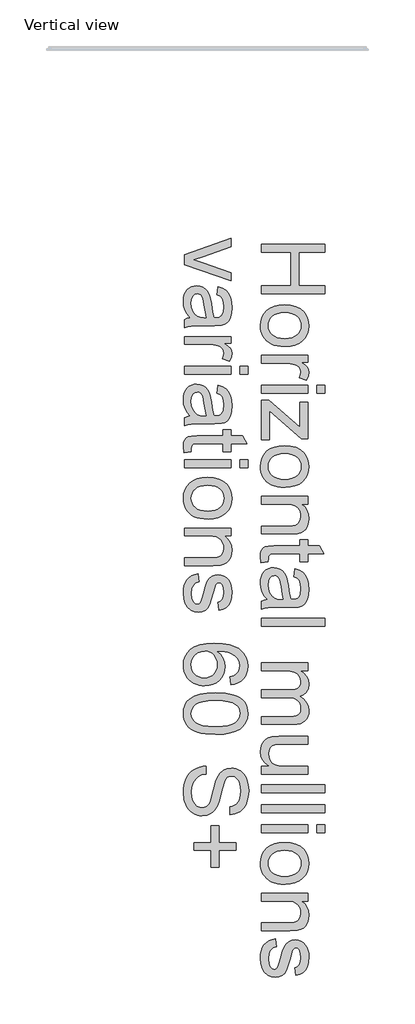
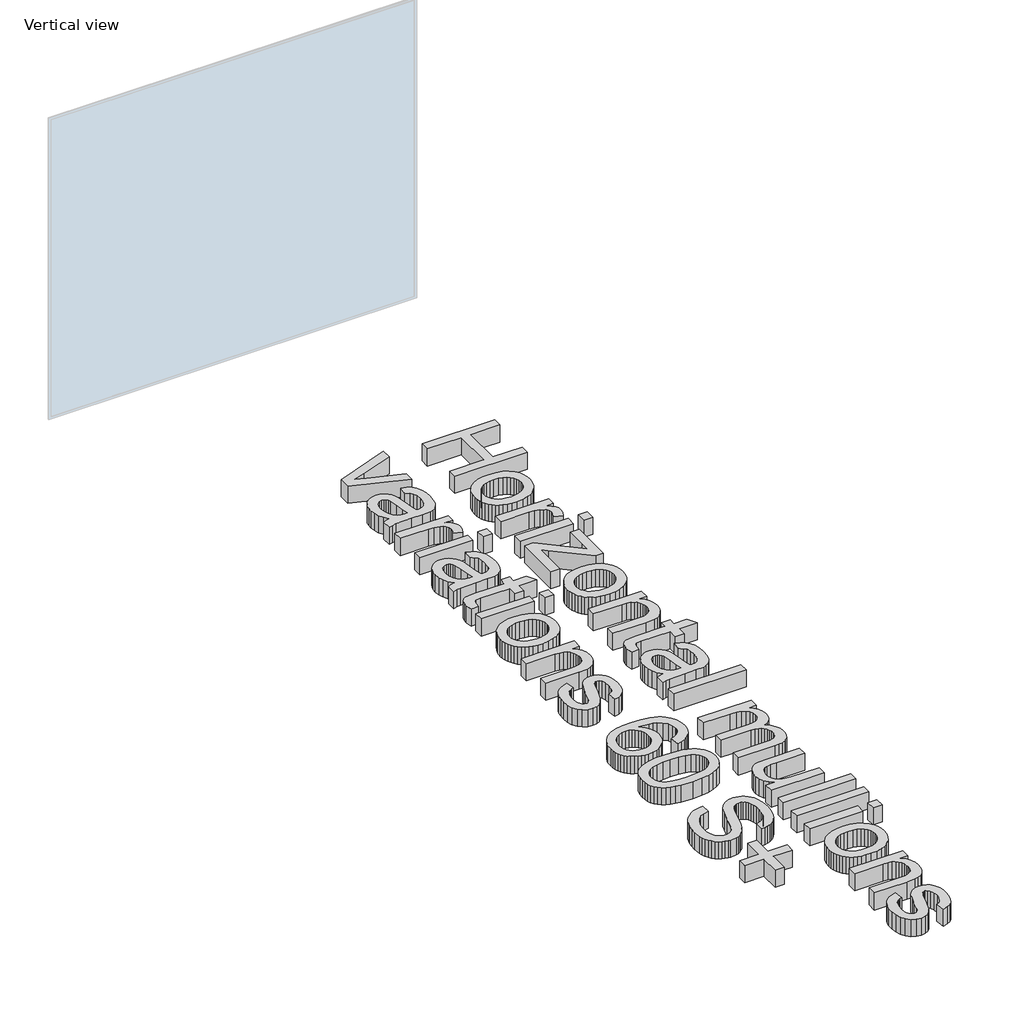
# One storey, part 8 of 8: 1 proxy.
"""IFC4 building model written with IfcOpenShell, lengths in millimetres."""

from ifc_helpers import new_model, si_unit, origin, origin_with_axes, place, context, project, spatial, polyline, outline, extrude, element, save

model = new_model("IFC4")

# Units and contexts
model_context = context("Model", 3, world=origin())
ifc_project = project(units=[si_unit("LENGTHUNIT", "METRE", prefix="MILLI")], contexts=[model_context])

# Site, building, storey
site = spatial("IfcSite", under=ifc_project)
building = spatial("IfcBuilding", under=site)
storey = spatial("IfcBuildingStorey", under=building, Name="Vertical view", Elevation=0.0)

# Proxy
placement = place(None, origin())
element("IfcBuildingElementProxy", 1, Name="600mm Arial", ObjectType="600mm Arial", at=placement, inside=storey, context=model_context, shape_type="SweptSolid", body=[
    extrude(outline(polyline([(35976.6354854, -5839.229343), (36579.3733463, -5839.229343), (36579.3733463, -5914.5715756), (36334.5110903, -5914.5715756), (36334.5110903, -6234.7760642), (36579.3733463, -6234.7760642), (36579.3733463, -6310.1182968), (35976.6354854, -6310.1182968), (35976.6354854, -6234.7760642), (36259.1688577, -6234.7760642), (36259.1688577, -5914.5715756), (35976.6354854, -5914.5715756), (35976.6354854, -5839.229343)])), origin_with_axes(), (0.0, 0.0, 1.0), 150.0),
    extrude(outline(polyline([(36197.9532937, -6413.7138666), (36255.2785056, -6417.7881597), (36304.6758605, -6430.011039), (36346.1453584, -6450.3825045), (36379.6869993, -6478.9025562), (36401.1253225, -6507.6157459), (36416.4384106, -6539.3087798), (36425.6262634, -6573.9816578), (36428.688881, -6611.63438), (36424.9594773, -6653.200447), (36413.7712661, -6690.7841913), (36395.1242475, -6724.385613), (36369.0184214, -6754.0047122), (36336.3367047, -6778.1791578), (36297.962014, -6795.4466189), (36253.8943495, -6805.8070956), (36204.1337112, -6809.2605878), (36163.8046475, -6807.7338776), (36128.0189264, -6803.1537467), (36096.7765479, -6795.5201953), (36070.0775121, -6784.8332234), (36047.0159096, -6771.2261881), (36026.6858308, -6754.8324466), (36009.0872759, -6735.6519991), (35994.2202447, -6713.6848455), (35982.4066342, -6689.7863114), (35973.9683409, -6664.8117224), (35968.9053649, -6638.7610786), (35967.2177063, -6611.63438), (35970.9333144, -6569.4613078), (35982.0801389, -6531.5280756), (36000.6581796, -6497.8346833), (36026.6674367, -6468.3811311), (36059.6664517, -6444.4642029), (36099.2137661, -6427.3806827), (36145.3093801, -6417.1305707), (36197.9532937, -6413.7138666)]), holes=[polyline([(36198.1004465, -6489.0560992), (36161.5559688, -6491.2358001), (36129.9135186, -6497.7749025), (36103.1730961, -6508.6734066), (36081.3347012, -6523.9313124), (36064.3707427, -6542.490959), (36052.2536295, -6563.2946859), (36044.9833615, -6586.3424929), (36042.5599389, -6611.63438), (36044.9971571, -6636.7975085), (36052.3088118, -6659.753345), (36064.4949029, -6680.5018895), (36081.5554304, -6699.0431421), (36103.609956, -6714.3010478), (36130.7780413, -6725.1995519), (36163.0596864, -6731.7386544), (36200.4548912, -6733.9183552), (36235.8405406, -6731.7248588), (36266.6552563, -6725.1443696), (36292.8990381, -6714.1768877), (36314.5718861, -6698.8224129), (36331.5358446, -6680.2121825), (36343.6529578, -6659.4774335), (36350.9232258, -6636.618166), (36353.3466484, -6611.63438), (36350.9324228, -6586.3424929), (36343.689746, -6563.2946859), (36331.6186181, -6542.490959), (36314.7190389, -6523.9313124), (36292.9450233, -6508.6734066), (36266.2505861, -6497.7749025), (36234.6357271, -6491.2358001), (36198.1004465, -6489.0560992)])]), origin_with_axes(), (0.0, 0.0, 1.0), 150.0),
    extrude(outline(polyline([(35976.6354854, -6894.0205995), (36419.271102, -6894.0205995), (36419.271102, -6959.9450531), (36353.7881068, -6959.9450531), (36391.7535287, -6984.2988411), (36414.120754, -7006.7396428), (36425.0468493, -7029.2540209), (36428.688881, -7053.8285382), (36422.8763455, -7091.3525017), (36405.4387389, -7129.4650764), (36337.8956046, -7104.301948), (36349.4838875, -7077.8144443), (36353.3466484, -7051.3269407), (36349.6310403, -7028.8309567), (36338.4842158, -7008.7262056), (36320.7523036, -6992.4842155), (36297.2814324, -6981.5765144), (36255.1957321, -6972.4162527), (36209.2840591, -6969.3628321), (35976.6354854, -6969.3628321), (35976.6354854, -6894.0205995)])), origin_with_axes(), (0.0, 0.0, 1.0), 150.0),
    extrude(outline(polyline([(35976.6354854, -7176.5539718), (36419.271102, -7176.5539718), (36419.271102, -7251.8962044), (35976.6354854, -7251.8962044), (35976.6354854, -7176.5539718)])), origin_with_axes(), (0.0, 0.0, 1.0), 150.0),
    extrude(outline(polyline([(36504.0311136, -7176.5539718), (36579.3733463, -7176.5539718), (36579.3733463, -7251.8962044), (36504.0311136, -7251.8962044), (36504.0311136, -7176.5539718)])), origin_with_axes(), (0.0, 0.0, 1.0), 150.0),
    extrude(outline(polyline([(35976.6354854, -7317.820658), (36047.563134, -7317.820658), (36343.9288693, -7577.8396522), (36343.9288693, -7500.8787388), (36343.9288693, -7336.6562161), (36419.271102, -7336.6562161), (36419.271102, -7685.114042), (36355.2596348, -7685.114042), (36092.2975846, -7454.5256074), (36051.977718, -7419.2089358), (36051.977718, -7506.3233923), (36051.977718, -7694.531821), (35976.6354854, -7694.531821), (35976.6354854, -7317.820658)])), origin_with_axes(), (0.0, 0.0, 1.0), 150.0),
    extrude(outline(polyline([(36197.9532937, -7751.0384955), (36255.2785056, -7755.1127886), (36304.6758605, -7767.3356679), (36346.1453584, -7787.7071334), (36379.6869993, -7816.227185), (36401.1253225, -7844.9403748), (36416.4384106, -7876.6334086), (36425.6262634, -7911.3062867), (36428.688881, -7948.9590089), (36424.9594773, -7990.5250758), (36413.7712661, -8028.1088202), (36395.1242475, -8061.7102419), (36369.0184214, -8091.329341), (36336.3367047, -8115.5037866), (36297.962014, -8132.7712478), (36253.8943495, -8143.1317245), (36204.1337112, -8146.5852167), (36163.8046475, -8145.0585064), (36128.0189264, -8140.4783756), (36096.7765479, -8132.8448242), (36070.0775121, -8122.1578522), (36047.0159096, -8108.5508169), (36026.6858308, -8092.1570755), (36009.0872759, -8072.976628), (35994.2202447, -8051.0094744), (35982.4066342, -8027.1109402), (35973.9683409, -8002.1363513), (35968.9053649, -7976.0857075), (35967.2177063, -7948.9590089), (35970.9333144, -7906.7859367), (35982.0801389, -7868.8527044), (36000.6581796, -7835.1593122), (36026.6674367, -7805.70576), (36059.6664517, -7781.7888318), (36099.2137661, -7764.7053116), (36145.3093801, -7754.4551995), (36197.9532937, -7751.0384955)]), holes=[polyline([(36198.1004465, -7826.3807281), (36161.5559688, -7828.5604289), (36129.9135186, -7835.0995314), (36103.1730961, -7845.9980355), (36081.3347012, -7861.2559412), (36064.3707427, -7879.8155879), (36052.2536295, -7900.6193147), (36044.9833615, -7923.6671217), (36042.5599389, -7948.9590089), (36044.9971571, -7974.1221374), (36052.3088118, -7997.0779739), (36064.4949029, -8017.8265184), (36081.5554304, -8036.3677709), (36103.609956, -8051.6256767), (36130.7780413, -8062.5241808), (36163.0596864, -8069.0632833), (36200.4548912, -8071.2429841), (36235.8405406, -8069.0494877), (36266.6552563, -8062.4689985), (36292.8990381, -8051.5015165), (36314.5718861, -8036.1470417), (36331.5358446, -8017.5368113), (36343.6529578, -7996.8020624), (36350.9232258, -7973.9427949), (36353.3466484, -7948.9590089), (36350.9324228, -7923.6671217), (36343.689746, -7900.6193147), (36331.6186181, -7879.8155879), (36314.7190389, -7861.2559412), (36292.9450233, -7845.9980355), (36266.2505861, -7835.0995314), (36234.6357271, -7828.5604289), (36198.1004465, -7826.3807281)])]), origin_with_axes(), (0.0, 0.0, 1.0), 150.0),
    extrude(outline(polyline([(35976.6354854, -8231.3452284), (36419.271102, -8231.3452284), (36419.271102, -8306.687461), (36357.4669268, -8306.687461), (36388.6265318, -8332.862265), (36410.8833925, -8364.2977814), (36424.2375089, -8400.9940105), (36428.688881, -8442.950952), (36425.1020316, -8480.0886394), (36414.3414832, -8514.0993299), (36397.7500052, -8542.4630317), (36376.6703669, -8562.6597532), (36351.1577505, -8576.3633576), (36321.2673384, -8585.2477077), (36248.4267034, -8589.2208333), (35976.6354854, -8589.2208333), (35976.6354854, -8513.8786007), (36238.2731603, -8513.8786007), (36277.2318636, -8511.7080969), (36304.9333779, -8505.1965856), (36324.7806115, -8493.1852385), (36340.176473, -8474.5152272), (36350.0541046, -8450.5845034), (36353.3466484, -8422.7910187), (36351.4980414, -8399.9133571), (36345.9522203, -8378.6635734), (36336.7091852, -8359.0416674), (36323.768936, -8341.0476394), (36305.6599448, -8326.0150613), (36280.9106836, -8315.2775056), (36249.5211523, -8308.8349721), (36211.4913511, -8306.687461), (35976.6354854, -8306.687461), (35976.6354854, -8231.3452284)])), origin_with_axes(), (0.0, 0.0, 1.0), 150.0),
    extrude(outline(polyline([(36039.4697301, -8852.9186474), (35974.4281934, -8862.3364265), (35967.2177063, -8805.9769049), (35970.3447032, -8769.8141047), (35979.7256941, -8742.8483545), (35994.1834565, -8723.7920671), (36012.5407681, -8711.3576557), (36044.0682551, -8704.5150506), (36098.0365438, -8702.2341822), (36343.9288693, -8702.2341822), (36343.9288693, -8645.7275078), (36419.271102, -8645.7275078), (36419.271102, -8702.2341822), (36526.8397973, -8702.2341822), (36571.1327896, -8777.5764148), (36419.271102, -8777.5764148), (36419.271102, -8852.9186474), (36343.9288693, -8852.9186474), (36343.9288693, -8777.5764148), (36100.2438357, -8777.5764148), (36061.395497, -8781.5495404), (36047.6367104, -8794.4254102), (36043.8291318, -8805.2963232), (36042.5599389, -8820.1035735), (36039.4697301, -8852.9186474)])), origin_with_axes(), (0.0, 0.0, 1.0), 150.0),
    extrude(outline(polyline([(36033.1421598, -9210.7942523), (36002.2768604, -9174.7969991), (35982.0801389, -9137.7328881), (35970.9333144, -9098.7557907), (35967.2177063, -9057.0195784), (35969.4525894, -9023.4733389), (35976.1572388, -8994.0565749), (35987.3316544, -8968.7692862), (36002.9758362, -8947.611473), (36022.0965029, -8930.9050319), (36043.7003731, -8918.9718597), (36067.7874467, -8911.8119563), (36094.3577238, -8909.4253219), (36125.5909052, -8913.0305655), (36153.954607, -8923.8462961), (36178.2348187, -8940.5297446), (36197.2175297, -8961.7381416), (36211.5649275, -8986.6621468), (36221.9391997, -9014.4924197), (36233.2699652, -9079.6811093), (36245.1893418, -9156.7155991), (36259.1688577, -9210.352794), (36275.9442766, -9210.7942523), (36309.568691, -9205.6071162), (36322.0214965, -9199.1231961), (36331.5680343, -9190.0457078), (36341.096178, -9174.3555407), (36347.9019949, -9155.2440711), (36353.3466484, -9106.7572241), (36349.7230108, -9061.8756207), (36338.8520978, -9030.5320747), (36318.7473468, -9009.1581308), (36287.4221949, -8994.1853336), (36296.839974, -8918.843101), (36338.0427574, -8931.9213059), (36370.416373, -8951.4374457), (36395.1748313, -8979.2125364), (36413.5321428, -9017.0675937), (36424.8996965, -9063.3655428), (36428.688881, -9116.4693088), (36425.3411549, -9167.402571), (36415.2979764, -9207.77762), (36400.1964205, -9238.2198551), (36381.673562, -9259.3546757), (36358.7729078, -9273.3709797), (36330.5379647, -9282.457665), (36264.6135112, -9286.136485), (36170.8771788, -9286.136485), (36039.9847649, -9289.9624577), (36007.6295434, -9295.6278404), (35976.6354854, -9304.9720431), (35976.6354854, -9229.6298105), (36002.8286834, -9217.5632811), (36033.1421598, -9210.7942523)]), holes=[polyline([(36183.826625, -9210.7942523), (36171.281849, -9160.1736898), (36160.7236357, -9089.2460411), (36148.5099535, -9024.4252336), (36140.1590322, -9007.5578441), (36128.6443258, -8995.0682504), (36114.8487509, -8987.3427285), (36099.6552245, -8984.7675545), (36077.251211, -8990.3777549), (36058.8938995, -9007.2083562), (36046.643429, -9034.8914764), (36042.5599389, -9073.0592334), (36047.0664933, -9113.5262528), (36060.5861567, -9149.2843828), (36080.5069667, -9178.273484), (36104.2169613, -9198.4334173), (36128.6443258, -9207.3729498), (36162.4894693, -9210.352794), (36183.826625, -9210.7942523)])]), origin_with_axes(), (0.0, 0.0, 1.0), 150.0),
    extrude(outline(polyline([(35976.6354854, -9389.7320548), (36579.3733463, -9389.7320548), (36579.3733463, -9465.0742874), (35976.6354854, -9465.0742874), (35976.6354854, -9389.7320548)])), origin_with_axes(), (0.0, 0.0, 1.0), 150.0),
    extrude(outline(polyline([(35976.6354854, -9813.5321132), (36419.271102, -9813.5321132), (36419.271102, -9888.8743459), (36346.4304669, -9888.8743459), (36379.8893344, -9911.5358768), (36406.1009265, -9940.6721308), (36423.0418924, -9975.2898265), (36428.688881, -10014.3956826), (36422.9315278, -10056.2974419), (36415.7348363, -10074.1305216), (36405.6594681, -10089.885068), (36378.0131362, -10114.9746201), (36341.1329662, -10131.3821571), (36379.4386789, -10158.844548), (36406.7999023, -10190.1696999), (36423.2166364, -10225.3576127), (36428.688881, -10264.4082865), (36426.4126112, -10294.5700116), (36419.5838016, -10321.0437197), (36408.2024524, -10343.8294108), (36392.2685635, -10362.9270848), (36371.5981939, -10378.0240422), (36346.0074026, -10388.8075832), (36315.4961896, -10395.2777078), (36280.064555, -10397.434416), (35976.6354854, -10397.434416), (35976.6354854, -10322.0921834), (36247.6909394, -10322.0921834), (36285.2700852, -10320.3447439), (36310.5987606, -10315.1024255), (36327.9443967, -10305.2799762), (36341.5744246, -10289.7921442), (36350.4035925, -10269.8713342), (36353.3466484, -10246.7499508), (36351.4612532, -10225.3989995), (36345.8050675, -10205.9334434), (36336.3780914, -10188.3532826), (36323.1803248, -10172.6585169), (36305.8254917, -10159.7504574), (36283.9273159, -10150.5304149), (36257.4857975, -10144.9983894), (36226.5009365, -10143.1543809), (35976.6354854, -10143.1543809), (35976.6354854, -10067.8121483), (36256.0786489, -10067.8121483), (36298.6793839, -10063.4527467), (36315.3996206, -10058.0034946), (36329.0664367, -10050.3745417), (36339.6890293, -10040.2623854), (36347.2765955, -10027.3635229), (36351.8291352, -10011.6779544), (36353.3466484, -9993.2056797), (36349.2999465, -9964.1797903), (36337.1598406, -9937.4347692), (36317.2206365, -9915.3618495), (36289.7766397, -9900.3522641), (36251.7008531, -9891.7438254), (36199.86628, -9888.8743459), (35976.6354854, -9888.8743459), (35976.6354854, -9813.5321132)])), origin_with_axes(), (0.0, 0.0, 1.0), 150.0),
    extrude(outline(polyline([(35976.6354854, -10792.9811372), (36052.713482, -10792.9811372), (36015.3090801, -10765.7210814), (35988.5916502, -10733.9728652), (35972.5611923, -10697.7364887), (35967.2177063, -10657.0119518), (35970.9701026, -10620.3157228), (35982.2272917, -10586.1578795), (35999.1498635, -10557.4998721), (36019.898408, -10537.3031506), (36045.0983247, -10523.7099108), (36075.3750129, -10514.8623489), (36145.4197447, -10510.4477649), (36419.271102, -10510.4477649), (36419.271102, -10585.7899975), (36180.8835691, -10585.7899975), (36133.2060625, -10586.9304317), (36104.0698085, -10590.3517343), (36078.4468275, -10601.3330118), (36058.9674759, -10620.1501759), (36046.6618231, -10645.5524276), (36042.5599389, -10676.2889683), (36046.7537936, -10708.7913426), (36059.3353579, -10739.1967895), (36079.1458033, -10764.2679475), (36105.0263017, -10780.767455), (36140.4717319, -10789.9277166), (36188.976973, -10792.9811372), (36419.271102, -10792.9811372), (36419.271102, -10868.3233698), (35976.6354854, -10868.3233698), (35976.6354854, -10792.9811372)])), origin_with_axes(), (0.0, 0.0, 1.0), 150.0),
    extrude(outline(polyline([(35976.6354854, -10971.9189397), (36579.3733463, -10971.9189397), (36579.3733463, -11047.2611723), (35976.6354854, -11047.2611723), (35976.6354854, -10971.9189397)])), origin_with_axes(), (0.0, 0.0, 1.0), 150.0),
    extrude(outline(polyline([(35976.6354854, -11160.2745212), (36579.3733463, -11160.2745212), (36579.3733463, -11235.6167538), (35976.6354854, -11235.6167538), (35976.6354854, -11160.2745212)])), origin_with_axes(), (0.0, 0.0, 1.0), 150.0),
    extrude(outline(polyline([(35976.6354854, -11348.6301027), (36419.271102, -11348.6301027), (36419.271102, -11423.9723353), (35976.6354854, -11423.9723353), (35976.6354854, -11348.6301027)])), origin_with_axes(), (0.0, 0.0, 1.0), 150.0),
    extrude(outline(polyline([(36504.0311136, -11348.6301027), (36579.3733463, -11348.6301027), (36579.3733463, -11423.9723353), (36504.0311136, -11423.9723353), (36504.0311136, -11348.6301027)])), origin_with_axes(), (0.0, 0.0, 1.0), 150.0),
    extrude(outline(polyline([(36197.9532937, -11518.1501261), (36255.2785056, -11522.2244192), (36304.6758605, -11534.4472985), (36346.1453584, -11554.818764), (36379.6869993, -11583.3388156), (36401.1253225, -11612.0520054), (36416.4384106, -11643.7450393), (36425.6262634, -11678.4179173), (36428.688881, -11716.0706395), (36424.9594773, -11757.6367064), (36413.7712661, -11795.2204508), (36395.1242475, -11828.8218725), (36369.0184214, -11858.4409716), (36336.3367047, -11882.6154172), (36297.962014, -11899.8828784), (36253.8943495, -11910.2433551), (36204.1337112, -11913.6968473), (36163.8046475, -11912.170137), (36128.0189264, -11907.5900062), (36096.7765479, -11899.9564548), (36070.0775121, -11889.2694828), (36047.0159096, -11875.6624475), (36026.6858308, -11859.2687061), (36009.0872759, -11840.0882586), (35994.2202447, -11818.121105), (35982.4066342, -11794.2225709), (35973.9683409, -11769.2479819), (35968.9053649, -11743.1973381), (35967.2177063, -11716.0706395), (35970.9333144, -11673.8975673), (35982.0801389, -11635.9643351), (36000.6581796, -11602.2709428), (36026.6674367, -11572.8173906), (36059.6664517, -11548.9004624), (36099.2137661, -11531.8169422), (36145.3093801, -11521.5668301), (36197.9532937, -11518.1501261)]), holes=[polyline([(36198.1004465, -11593.4923587), (36161.5559688, -11595.6720595), (36129.9135186, -11602.211162), (36103.1730961, -11613.1096661), (36081.3347012, -11628.3675719), (36064.3707427, -11646.9272185), (36052.2536295, -11667.7309453), (36044.9833615, -11690.7787523), (36042.5599389, -11716.0706395), (36044.9971571, -11741.233768), (36052.3088118, -11764.1896045), (36064.4949029, -11784.938149), (36081.5554304, -11803.4794016), (36103.609956, -11818.7373073), (36130.7780413, -11829.6358114), (36163.0596864, -11836.1749139), (36200.4548912, -11838.3546147), (36235.8405406, -11836.1611183), (36266.6552563, -11829.5806291), (36292.8990381, -11818.6131471), (36314.5718861, -11803.2586724), (36331.5358446, -11784.6484419), (36343.6529578, -11763.913693), (36350.9232258, -11741.0544255), (36353.3466484, -11716.0706395), (36350.9324228, -11690.7787523), (36343.689746, -11667.7309453), (36331.6186181, -11646.9272185), (36314.7190389, -11628.3675719), (36292.9450233, -11613.1096661), (36266.2505861, -11602.211162), (36234.6357271, -11595.6720595), (36198.1004465, -11593.4923587)])]), origin_with_axes(), (0.0, 0.0, 1.0), 150.0),
    extrude(outline(polyline([(35976.6354854, -11998.456859), (36419.271102, -11998.456859), (36419.271102, -12073.7990916), (36357.4669268, -12073.7990916), (36388.6265318, -12099.9738956), (36410.8833925, -12131.4094121), (36424.2375089, -12168.1056411), (36428.688881, -12210.0625826), (36425.1020316, -12247.20027), (36414.3414832, -12281.2109605), (36397.7500052, -12309.5746623), (36376.6703669, -12329.7713839), (36351.1577505, -12343.4749882), (36321.2673384, -12352.3593384), (36248.4267034, -12356.3324639), (35976.6354854, -12356.3324639), (35976.6354854, -12280.9902313), (36238.2731603, -12280.9902313), (36277.2318636, -12278.8197275), (36304.9333779, -12272.3082162), (36324.7806115, -12260.2968691), (36340.176473, -12241.6268578), (36350.0541046, -12217.696134), (36353.3466484, -12189.9026493), (36351.4980414, -12167.0249877), (36345.9522203, -12145.775204), (36336.7091852, -12126.1532981), (36323.768936, -12108.15927), (36305.6599448, -12093.1266919), (36280.9106836, -12082.3891362), (36249.5211523, -12075.9466028), (36211.4913511, -12073.7990916), (35976.6354854, -12073.7990916), (35976.6354854, -11998.456859)])), origin_with_axes(), (0.0, 0.0, 1.0), 150.0),
    extrude(outline(polyline([(36108.4843924, -12431.6746965), (36117.9021715, -12507.0169291), (36100.7220823, -12511.5694688), (36085.6757087, -12518.8995176), (36072.7630507, -12529.0070754), (36061.9841082, -12541.8921423), (36053.4860341, -12557.5915064), (36047.4159812, -12576.141956), (36042.5599389, -12621.7961116), (36047.011311, -12666.8984442), (36052.5755262, -12684.4280213), (36060.3654275, -12698.6098722), (36079.7160204, -12717.371854), (36090.5501452, -12722.0623494), (36102.1568221, -12723.6258479), (36112.3287593, -12722.0531524), (36121.3602623, -12717.3350658), (36136.0019657, -12698.4627194), (36145.5668975, -12670.2461704), (36157.4862742, -12620.9131948), (36177.370296, -12552.1560499), (36194.3480501, -12507.4583875), (36212.8709086, -12478.7451978), (36237.3902435, -12457.941471), (36266.3425566, -12445.3047244), (36298.1643491, -12441.0924756), (36327.3557855, -12444.47699), (36354.3031416, -12454.630533), (36377.9395598, -12470.6333998), (36397.1981822, -12491.5658853), (36409.319894, -12512.3696122), (36419.4918311, -12539.4641211), (36426.3896186, -12570.789273), (36428.688881, -12604.2849287), (36424.991667, -12653.3235986), (36413.9000248, -12695.9611219), (36396.4992065, -12730.2477238), (36373.8744637, -12754.2336299), (36344.3519336, -12770.1261321), (36306.257753, -12780.1325224), (36296.839974, -12704.7902897), (36320.5499685, -12695.2805402), (36338.4106394, -12676.4633761), (36349.6126462, -12648.1548566), (36353.3466484, -12610.1710406), (36349.7781931, -12566.9081179), (36339.072827, -12538.0661695), (36323.6217832, -12521.8425735), (36305.8162946, -12516.4347082), (36294.2280118, -12518.6787884), (36283.8905277, -12525.4110289), (36274.6566896, -12536.9257353), (36267.2622615, -12553.5172133), (36251.2226066, -12618.4115973), (36215.7587822, -12728.996925), (36198.7994222, -12758.2067554), (36175.5860683, -12780.3532515), (36146.0451441, -12794.3143733), (36110.1030732, -12798.9680805), (36072.9469917, -12793.5050329), (36037.9982022, -12777.11589), (36007.9974254, -12750.4260512), (35985.6853824, -12714.060916), (35971.8346253, -12670.1358058), (35967.2177063, -12620.766042), (35969.4433924, -12580.2162491), (35976.1204506, -12544.79841), (35987.2488809, -12514.5125248), (36002.8286834, -12489.3585934), (36022.7862817, -12468.8123839), (36047.0480992, -12452.3496646), (36075.6141362, -12439.9704355), (36108.4843924, -12431.6746965)])), origin_with_axes(), (0.0, 0.0, 1.0), 150.0),
    extrude(outline(polyline([(35244.7865783, -5938.4103289), (35687.4221949, -5782.7226685), (35687.4221949, -5862.479485), (35422.2528528, -5956.8044286), (35333.0782571, -5985.2049186), (35417.2496576, -6013.0167975), (35687.4221949, -6107.9303522), (35687.4221949, -6187.6871688), (35244.7865783, -6033.9124948), (35244.7865783, -5938.4103289)])), origin_with_axes(), (0.0, 0.0, 1.0), 150.0),
    extrude(outline(polyline([(35301.2932527, -6536.1449946), (35270.4279533, -6500.1477414), (35250.2312318, -6463.0836304), (35239.0844074, -6424.106533), (35235.3687992, -6382.3703206), (35237.6036823, -6348.8240812), (35244.3083317, -6319.4073172), (35255.4827473, -6294.1200285), (35271.1269291, -6272.9622153), (35290.2475958, -6256.2557742), (35311.851466, -6244.3226019), (35335.9385396, -6237.1626986), (35362.5088167, -6234.7760642), (35393.7419981, -6238.3813077), (35422.1057, -6249.1970384), (35446.3859116, -6265.8804869), (35465.3686226, -6287.0888839), (35479.7160204, -6312.0128891), (35490.0902927, -6339.843162), (35501.4210581, -6405.0318515), (35513.3404348, -6482.0663413), (35527.3199506, -6535.7035362), (35544.0953696, -6536.1449946), (35577.7197839, -6530.9578585), (35590.1725895, -6524.4739383), (35599.7191272, -6515.3964501), (35609.2472709, -6499.706283), (35616.0530878, -6480.5948133), (35621.4977413, -6432.1079664), (35617.8741037, -6387.226363), (35607.0031907, -6355.882817), (35586.8984397, -6334.5088731), (35555.5732878, -6319.5360759), (35564.9910669, -6244.1938432), (35606.1938503, -6257.2720482), (35638.5674659, -6276.788188), (35663.3259242, -6304.5632787), (35681.6832358, -6342.418336), (35693.0507894, -6388.716285), (35696.839974, -6441.8200511), (35693.4922478, -6492.7533133), (35683.4490693, -6533.1283623), (35668.3475134, -6563.5705974), (35649.824655, -6584.705418), (35626.9240008, -6598.721722), (35598.6890576, -6607.8084073), (35532.7646041, -6611.4872272), (35439.0282717, -6611.4872272), (35308.1358579, -6615.3132), (35275.7806364, -6620.9785827), (35244.7865783, -6630.3227854), (35244.7865783, -6554.9805528), (35270.9797763, -6542.9140233), (35301.2932527, -6536.1449946)]), holes=[polyline([(35451.977718, -6536.1449946), (35439.4329419, -6485.5244321), (35428.8747287, -6414.5967834), (35416.6610464, -6349.7759759), (35408.3101251, -6332.9085864), (35396.7954187, -6320.4189926), (35382.9998439, -6312.6934707), (35367.8063175, -6310.1182968), (35345.402304, -6315.7284972), (35327.0449924, -6332.5590985), (35314.794522, -6360.2422186), (35310.7110318, -6398.4099756), (35315.2175863, -6438.8769951), (35328.7372496, -6474.635125), (35348.6580596, -6503.6242262), (35372.3680542, -6523.7841596), (35396.7954187, -6532.7236921), (35430.6405622, -6535.7035362), (35451.977718, -6536.1449946)])]), origin_with_axes(), (0.0, 0.0, 1.0), 150.0),
    extrude(outline(polyline([(35244.7865783, -6715.0827971), (35687.4221949, -6715.0827971), (35687.4221949, -6781.0072506), (35621.9391997, -6781.0072506), (35659.9046216, -6805.3610387), (35682.2718469, -6827.8018404), (35693.1979422, -6850.3162185), (35696.839974, -6874.8907358), (35691.0274384, -6912.4146993), (35673.5898319, -6950.527274), (35606.0466975, -6925.3641455), (35617.6349804, -6898.8766419), (35621.4977413, -6872.3891382), (35617.7821332, -6849.8931542), (35606.6353087, -6829.7884032), (35588.9033966, -6813.5464131), (35565.4325253, -6802.6387119), (35523.346825, -6793.4784502), (35477.435152, -6790.4250297), (35244.7865783, -6790.4250297), (35244.7865783, -6715.0827971)])), origin_with_axes(), (0.0, 0.0, 1.0), 150.0),
    extrude(outline(polyline([(35244.7865783, -6997.6161694), (35687.4221949, -6997.6161694), (35687.4221949, -7072.958402), (35244.7865783, -7072.958402), (35244.7865783, -6997.6161694)])), origin_with_axes(), (0.0, 0.0, 1.0), 150.0),
    extrude(outline(polyline([(35772.1822066, -6997.6161694), (35847.5244392, -6997.6161694), (35847.5244392, -7072.958402), (35772.1822066, -7072.958402), (35772.1822066, -6997.6161694)])), origin_with_axes(), (0.0, 0.0, 1.0), 150.0),
    extrude(outline(polyline([(35301.2932527, -7468.5051232), (35270.4279533, -7432.50787), (35250.2312318, -7395.4437589), (35239.0844074, -7356.4666616), (35235.3687992, -7314.7304492), (35237.6036823, -7281.1842098), (35244.3083317, -7251.7674457), (35255.4827473, -7226.4801571), (35271.1269291, -7205.3223438), (35290.2475958, -7188.6159027), (35311.851466, -7176.6827305), (35335.9385396, -7169.5228272), (35362.5088167, -7167.1361927), (35393.7419981, -7170.7414363), (35422.1057, -7181.557167), (35446.3859116, -7198.2406154), (35465.3686226, -7219.4490125), (35479.7160204, -7244.3730176), (35490.0902927, -7272.2032906), (35501.4210581, -7337.3919801), (35513.3404348, -7414.4264699), (35527.3199506, -7468.0636648), (35544.0953696, -7468.5051232), (35577.7197839, -7463.3179871), (35590.1725895, -7456.8340669), (35599.7191272, -7447.7565787), (35609.2472709, -7432.0664116), (35616.0530878, -7412.9549419), (35621.4977413, -7364.468095), (35617.8741037, -7319.5864915), (35607.0031907, -7288.2429456), (35586.8984397, -7266.8690016), (35555.5732878, -7251.8962044), (35564.9910669, -7176.5539718), (35606.1938503, -7189.6321767), (35638.5674659, -7209.1483166), (35663.3259242, -7236.9234072), (35681.6832358, -7274.7784645), (35693.0507894, -7321.0764136), (35696.839974, -7374.1801796), (35693.4922478, -7425.1134419), (35683.4490693, -7465.4884908), (35668.3475134, -7495.9307259), (35649.824655, -7517.0655466), (35626.9240008, -7531.0818506), (35598.6890576, -7540.1685359), (35532.7646041, -7543.8473558), (35439.0282717, -7543.8473558), (35308.1358579, -7547.6733286), (35275.7806364, -7553.3387113), (35244.7865783, -7562.682914), (35244.7865783, -7487.3406813), (35270.9797763, -7475.2741519), (35301.2932527, -7468.5051232)]), holes=[polyline([(35451.977718, -7468.5051232), (35439.4329419, -7417.8845607), (35428.8747287, -7346.956912), (35416.6610464, -7282.1361044), (35408.3101251, -7265.268715), (35396.7954187, -7252.7791212), (35382.9998439, -7245.0535993), (35367.8063175, -7242.4784254), (35345.402304, -7248.0886258), (35327.0449924, -7264.9192271), (35314.794522, -7292.6023472), (35310.7110318, -7330.7701042), (35315.2175863, -7371.2371237), (35328.7372496, -7406.9952536), (35348.6580596, -7435.9843548), (35372.3680542, -7456.1442882), (35396.7954187, -7465.0838206), (35430.6405622, -7468.0636648), (35451.977718, -7468.5051232)])]), origin_with_axes(), (0.0, 0.0, 1.0), 150.0),
    extrude(outline(polyline([(35307.6208231, -7807.5451699), (35242.5792863, -7816.962949), (35235.3687992, -7760.6034274), (35238.4957962, -7724.4406272), (35247.876787, -7697.474877), (35262.3345495, -7678.4185896), (35280.691861, -7665.9841782), (35312.219348, -7659.1415731), (35366.1876367, -7656.8607047), (35612.0799623, -7656.8607047), (35612.0799623, -7600.3540303), (35687.4221949, -7600.3540303), (35687.4221949, -7656.8607047), (35794.9908903, -7656.8607047), (35839.2838825, -7732.2029373), (35687.4221949, -7732.2029373), (35687.4221949, -7807.5451699), (35612.0799623, -7807.5451699), (35612.0799623, -7732.2029373), (35368.3949287, -7732.2029373), (35329.54659, -7736.1760629), (35315.7878034, -7749.0519327), (35311.9802247, -7759.9228457), (35310.7110318, -7774.730096), (35307.6208231, -7807.5451699)])), origin_with_axes(), (0.0, 0.0, 1.0), 150.0),
    extrude(outline(polyline([(35244.7865783, -7882.8874026), (35687.4221949, -7882.8874026), (35687.4221949, -7958.2296352), (35244.7865783, -7958.2296352), (35244.7865783, -7882.8874026)])), origin_with_axes(), (0.0, 0.0, 1.0), 150.0),
    extrude(outline(polyline([(35772.1822066, -7882.8874026), (35847.5244392, -7882.8874026), (35847.5244392, -7958.2296352), (35772.1822066, -7958.2296352), (35772.1822066, -7882.8874026)])), origin_with_axes(), (0.0, 0.0, 1.0), 150.0),
    extrude(outline(polyline([(35466.1043866, -8052.4074259), (35523.4295985, -8056.481719), (35572.8269534, -8068.7045983), (35614.2964513, -8089.0760638), (35647.8380922, -8117.5961155), (35669.2764155, -8146.3093052), (35684.5895035, -8178.0023391), (35693.7773563, -8212.6752171), (35696.839974, -8250.3279393), (35693.1105702, -8291.8940063), (35681.9223591, -8329.4777506), (35663.2753404, -8363.0791723), (35637.1695143, -8392.6982715), (35604.4877976, -8416.8727171), (35566.113107, -8434.1401782), (35522.0454425, -8444.5006549), (35472.2848041, -8447.9541471), (35431.9557404, -8446.4274369), (35396.1700193, -8441.847306), (35364.9276409, -8434.2137546), (35338.2286051, -8423.5267827), (35315.1670025, -8409.9197474), (35294.8369237, -8393.526006), (35277.2383688, -8374.3455584), (35262.3713377, -8352.3784048), (35250.5577271, -8328.4798707), (35242.1194338, -8303.5052817), (35237.0564579, -8277.454638), (35235.3687992, -8250.3279393), (35239.0844074, -8208.1548671), (35250.2312318, -8170.2216349), (35268.8092726, -8136.5282427), (35294.8185296, -8107.0746904), (35327.8175446, -8083.1577622), (35367.3648591, -8066.0742421), (35413.4604731, -8055.82413), (35466.1043866, -8052.4074259)]), holes=[polyline([(35466.2515394, -8127.7496585), (35429.7070617, -8129.9293594), (35398.0646116, -8136.4684618), (35371.3241891, -8147.3669659), (35349.4857941, -8162.6248717), (35332.5218356, -8181.1845183), (35320.4047224, -8201.9882452), (35313.1344545, -8225.0360522), (35310.7110318, -8250.3279393), (35313.14825, -8275.4910678), (35320.4599047, -8298.4469043), (35332.6459958, -8319.1954488), (35349.7065233, -8337.7367014), (35371.7610489, -8352.9946071), (35398.9291343, -8363.8931113), (35431.2107793, -8370.4322137), (35468.6059842, -8372.6119145), (35503.9916336, -8370.4184181), (35534.8063492, -8363.837929), (35561.050131, -8352.870447), (35582.7229791, -8337.5159722), (35599.6869376, -8318.9057418), (35611.8040508, -8298.1709928), (35619.0743187, -8275.3117253), (35621.4977413, -8250.3279393), (35619.0835158, -8225.0360522), (35611.840839, -8201.9882452), (35599.769711, -8181.1845183), (35582.8701319, -8162.6248717), (35561.0961163, -8147.3669659), (35534.401679, -8136.4684618), (35502.78682, -8129.9293594), (35466.2515394, -8127.7496585)])]), origin_with_axes(), (0.0, 0.0, 1.0), 150.0),
    extrude(outline(polyline([(35244.7865783, -8532.7141588), (35687.4221949, -8532.7141588), (35687.4221949, -8608.0563915), (35625.6180197, -8608.0563915), (35656.7776247, -8634.2311954), (35679.0344854, -8665.6667119), (35692.3886018, -8702.3629409), (35696.839974, -8744.3198825), (35693.2531245, -8781.4575699), (35682.4925761, -8815.4682603), (35665.9010982, -8843.8319622), (35644.8214598, -8864.0286837), (35619.3088435, -8877.732288), (35589.4184314, -8886.6166382), (35516.5777963, -8890.5897637), (35244.7865783, -8890.5897637), (35244.7865783, -8815.2475311), (35506.4242533, -8815.2475311), (35545.3829565, -8813.0770274), (35573.0844708, -8806.565516), (35592.9317044, -8794.5541689), (35608.3275659, -8775.8841577), (35618.2051975, -8751.9534339), (35621.4977413, -8724.1599491), (35619.6491343, -8701.2822876), (35614.1033132, -8680.0325038), (35604.8602781, -8660.4105979), (35591.9200289, -8642.4165698), (35573.8110377, -8627.3839918), (35549.0617765, -8616.646436), (35517.6722453, -8610.2039026), (35479.642444, -8608.0563915), (35244.7865783, -8608.0563915), (35244.7865783, -8532.7141588)])), origin_with_axes(), (0.0, 0.0, 1.0), 150.0),
    extrude(outline(polyline([(35376.6354854, -8965.9319964), (35386.0532644, -9041.274229), (35368.8731753, -9045.8267687), (35353.8268017, -9053.1568174), (35340.9141436, -9063.2643752), (35330.1352012, -9076.1494421), (35321.6371271, -9091.8488063), (35315.5670742, -9110.3992559), (35310.7110318, -9156.0534115), (35315.162404, -9201.1557441), (35320.7266191, -9218.6853211), (35328.5165204, -9232.8671721), (35347.8671133, -9251.6291538), (35358.7012381, -9256.3196493), (35370.307915, -9257.8831477), (35380.4798522, -9256.3104522), (35389.5113552, -9251.5923656), (35404.1530586, -9232.7200193), (35413.7179905, -9204.5034702), (35425.6373671, -9155.1704947), (35445.521389, -9086.4133498), (35462.499143, -9041.7156874), (35481.0220015, -9013.0024976), (35505.5413365, -8992.1987708), (35534.4936495, -8979.5620243), (35566.3154421, -8975.3497754), (35595.5068784, -8978.7342898), (35622.4542345, -8988.8878329), (35646.0906527, -9004.8906996), (35665.3492752, -9025.8231852), (35677.4709869, -9046.626912), (35687.6429241, -9073.7214209), (35694.5407115, -9105.0465728), (35696.839974, -9138.5422285), (35693.1427599, -9187.5808985), (35682.0511178, -9230.2184217), (35664.6502994, -9264.5050236), (35642.0255567, -9288.4909297), (35612.5030266, -9304.3834319), (35574.408846, -9314.3898222), (35564.9910669, -9239.0475896), (35588.7010615, -9229.53784), (35606.5617323, -9210.7206759), (35617.7637391, -9182.4121564), (35621.4977413, -9144.4283404), (35617.929286, -9101.1654178), (35607.2239199, -9072.3234694), (35591.7728761, -9056.0998734), (35573.9673876, -9050.692008), (35562.3791047, -9052.9360882), (35552.0416207, -9059.6683287), (35542.8077826, -9071.1830352), (35535.4133545, -9087.7745132), (35519.3736995, -9152.6688971), (35483.9098751, -9263.2542249), (35466.9505152, -9292.4640553), (35443.7371613, -9314.6105514), (35414.1962371, -9328.5716731), (35378.2541661, -9333.2253803), (35341.0980846, -9327.7623327), (35306.1492951, -9311.3731898), (35276.1485184, -9284.6833511), (35253.8364754, -9248.3182159), (35239.9857182, -9204.3931056), (35235.3687992, -9155.0233419), (35237.5944853, -9114.473549), (35244.2715435, -9079.0557099), (35255.3999738, -9048.7698246), (35270.9797763, -9023.6158932), (35290.9373746, -9003.0696838), (35315.1991922, -8986.6069645), (35343.7652291, -8974.2277353), (35376.6354854, -8965.9319964)])), origin_with_axes(), (0.0, 0.0, 1.0), 150.0),
    extrude(outline(polyline([(35687.4221949, -10020.7232529), (35678.0044158, -9945.3810203), (35715.3444383, -9933.2409145), (35740.8386606, -9916.8333775), (35754.551462, -9900.6373727), (35764.3463201, -9882.6571401), (35770.2232349, -9862.8926799), (35772.1822066, -9841.3439921), (35767.6204698, -9806.3216261), (35753.9352596, -9773.3593994), (35725.1117053, -9745.0508798), (35685.4356321, -9721.9294964), (35660.1299494, -9712.8933949), (35629.3152337, -9706.3129058), (35551.1587039, -9700.5187643), (35586.4201931, -9730.7402702), (35611.2706219, -9766.9582527), (35626.0042958, -9807.1493606), (35630.9155204, -9849.2902432), (35627.5585972, -9885.4898315), (35617.4878276, -9918.8935167), (35600.7032116, -9949.5012987), (35577.2047491, -9977.3131775), (35548.3903919, -10000.4253638), (35515.6580913, -10016.9340684), (35479.0078476, -10026.8392911), (35438.4396605, -10030.141032), (35410.9726711, -10028.5867306), (35384.489766, -10023.9238263), (35358.9909452, -10016.1523191), (35334.4762087, -10005.2722091), (35311.8606631, -9991.6697724), (35292.0594147, -9975.7312849), (35275.0724635, -9957.4567468), (35260.8998097, -9936.846158), (35249.7299926, -9914.340977), (35241.7515518, -9890.382662), (35236.9644874, -9864.9712132), (35235.3687992, -9838.1066305), (35239.5994422, -9793.1928374), (35252.291371, -9752.6292489), (35273.4445857, -9716.415865), (35303.0590863, -9684.5526857), (35342.3856716, -9658.5756184), (35392.6751403, -9640.0205702), (35453.9274925, -9628.8875413), (35526.1427282, -9625.1765317), (35607.1043583, -9629.2968101), (35676.201794, -9641.6576451), (35733.4350354, -9662.2590368), (35757.6025832, -9675.6499415), (35778.8040825, -9691.1009853), (35808.8692385, -9722.3617578), (35830.34435, -9758.6073314), (35843.2294169, -9799.837706), (35847.5244392, -9846.0528816), (35844.8664918, -9880.7533508), (35836.8926495, -9912.1612762), (35823.6029124, -9940.2766576), (35804.9972805, -9965.0994953), (35781.7011532, -9985.9584044), (35754.3399298, -10002.1820004), (35722.9136104, -10013.7702832), (35687.4221949, -10020.7232529)]), holes=[polyline([(35439.6168829, -9700.5187643), (35406.2315919, -9704.878166), (35374.354617, -9717.9563709), (35346.9474083, -9738.263457), (35326.971416, -9764.3095023), (35314.7761279, -9795.7450188), (35310.7110318, -9832.2205186), (35312.8171562, -9858.4091181), (35319.1355295, -9881.9397702), (35329.6661516, -9902.812475), (35344.4090226, -9921.0272322), (35362.7663341, -9935.8022929), (35384.1402781, -9946.3559076), (35408.5308543, -9952.6880764), (35435.938063, -9954.7987994), (35462.2738153, -9952.7156676), (35485.6573146, -9946.4662722), (35506.0885609, -9936.0506132), (35523.5675542, -9921.4686906), (35537.5700627, -9903.198751), (35547.5718544, -9881.7190411), (35553.5729295, -9857.0295607), (35555.5732878, -9829.1303098), (35553.5729295, -9803.2911982), (35547.5718544, -9779.4846346), (35537.5700627, -9757.710619), (35523.5675542, -9737.9691514), (35506.3184872, -9721.5846071), (35486.5770196, -9709.8813611), (35464.3431515, -9702.8594135), (35439.6168829, -9700.5187643)])]), origin_with_axes(), (0.0, 0.0, 1.0), 150.0),
    extrude(outline(polyline([(35541.2994664, -10096.0654855), (35637.7765196, -10101.6021096), (35678.689596, -10108.5228896), (35714.7190389, -10118.2119817), (35746.1591539, -10130.627999), (35773.3042467, -10145.7295549), (35796.1543171, -10163.5166494), (35814.7093652, -10183.9892824), (35829.0659601, -10207.2164319), (35839.3206707, -10233.2670756), (35845.4734971, -10262.1412137), (35847.5244392, -10293.8388461), (35842.6683968, -10340.2655539), (35828.1002698, -10381.8362194), (35804.3902752, -10416.6010679), (35772.1086302, -10442.610325), (35731.5312461, -10462.2552235), (35682.9340345, -10477.9269965), (35621.2218298, -10488.1909042), (35541.2994664, -10491.6122068), (35445.3742362, -10486.130765), (35404.5991155, -10479.2789629), (35368.6156579, -10469.6864398), (35337.1617473, -10457.3669915), (35309.9752678, -10442.3344135), (35287.0562195, -10424.5887058), (35268.4046024, -10404.1298683), (35253.9514385, -10380.8751277), (35243.62775, -10354.7417105), (35237.4335369, -10325.7296166), (35235.3687992, -10293.8388461), (35238.9556487, -10252.3417571), (35249.716197, -10215.5535576), (35267.6504443, -10183.4742476), (35292.7583905, -10156.1038272), (35338.1458316, -10129.8370527), (35394.6984913, -10111.0750709), (35462.4163696, -10099.8178819), (35541.2994664, -10096.0654855)]), holes=[polyline([(35541.4466192, -10171.4077182), (35475.9498285, -10173.6150101), (35422.9334344, -10180.236886), (35382.3974371, -10191.2733459), (35354.3418364, -10206.7243897), (35335.2533594, -10225.412795), (35321.618733, -10246.1613396), (35313.4379571, -10268.9700233), (35310.7110318, -10293.8388461), (35313.4471542, -10318.707669), (35321.6555212, -10341.5163527), (35335.3361329, -10362.2648973), (35354.4889892, -10380.9533026), (35382.5905752, -10396.4043464), (35423.1173754, -10407.4408063), (35476.0693901, -10414.0626822), (35541.4466192, -10416.2699741), (35605.209766, -10414.1362586), (35657.2926595, -10407.7351119), (35697.6952996, -10397.066534), (35726.4176864, -10382.130525), (35746.439664, -10363.7548193), (35760.7410765, -10342.7671515), (35769.3219241, -10319.1675215), (35772.1822066, -10292.9559294), (35769.6622149, -10268.2158652), (35762.1022399, -10245.7934576), (35749.5022816, -10225.6887065), (35731.8623399, -10207.9016121), (35700.5923703, -10191.9355335), (35658.4330937, -10180.5311916), (35605.38451, -10173.6885865), (35541.4466192, -10171.4077182)])]), origin_with_axes(), (0.0, 0.0, 1.0), 150.0),
    extrude(outline(polyline([(35451.977718, -10792.9811372), (35451.977718, -10868.3233698), (35410.1679292, -10876.9685967), (35376.561909, -10892.6035815), (35349.8904643, -10916.9941578), (35328.8844024, -10951.9061591), (35315.2543745, -10994.5804706), (35310.7110318, -11042.2579771), (35314.1507285, -11084.2333128), (35324.4698184, -11120.9847241), (35340.803779, -11150.7647716), (35362.2880875, -11171.8260158), (35386.9545753, -11184.3523978), (35412.8350737, -11188.5278584), (35438.0533845, -11185.4008615), (35459.8503927, -11176.0198706), (35478.4468275, -11156.9635832), (35494.0634182, -11124.8106969), (35522.8317902, -11015.1082859), (35541.8696835, -10943.0953853), (35559.9878718, -10897.0181654), (35585.3349412, -10859.512596), (35616.0530878, -10832.9331219), (35651.480124, -10817.095802), (35690.953862, -10811.8166954), (35713.3900652, -10813.4491717), (35735.0813074, -10818.3466008), (35756.0275885, -10826.5089825), (35776.2289085, -10837.936317), (35794.8621316, -10852.4998455), (35811.1041217, -10870.0708093), (35824.9548788, -10890.6492084), (35836.4144029, -10914.2350428), (35851.8102644, -10967.2468383), (35856.9422183, -11025.9240166), (35851.5711411, -11089.4940253), (35835.4579097, -11145.117783), (35823.4557596, -11169.453177), (35808.9336179, -11190.8087268), (35791.8914845, -11209.1844324), (35772.3293594, -11224.5802939), (35750.8174597, -11236.8767496), (35727.9260026, -11245.9542379), (35703.6549879, -11251.8127586), (35678.0044158, -11254.452312), (35678.0044158, -11179.1100793), (35702.0455042, -11174.070096), (35722.9595956, -11165.2777163), (35740.7466901, -11152.7329403), (35755.4067876, -11136.4357679), (35766.8663117, -11116.0826965), (35775.0516861, -11091.3702235), (35779.9629108, -11062.2983488), (35781.5999856, -11028.8670725), (35779.9813049, -10994.3689384), (35775.1252625, -10964.8923936), (35767.0318586, -10940.4374379), (35755.7010932, -10921.0040715), (35742.0802623, -10906.1968212), (35727.1166622, -10895.6202139), (35710.8102927, -10889.2742494), (35693.161154, -10887.158928), (35677.9768247, -10888.6580471), (35664.208841, -10893.1554045), (35651.857203, -10900.6510001), (35640.9219107, -10911.1448341), (35630.5660325, -10927.6627356), (35620.0997898, -10953.6719927), (35598.8362104, -11034.1645732), (35578.6394889, -11117.2323278), (35561.0179413, -11167.4850083), (35533.6843091, -11210.4352312), (35517.617063, -11227.0405048), (35499.9495301, -11240.3992197), (35480.7736811, -11250.6677259), (35460.1814865, -11258.0023732), (35414.7480601, -11263.870091), (35391.1806197, -11262.1824324), (35368.3029582, -11257.1194564), (35346.1150753, -11248.6811632), (35324.6169712, -11236.8675526), (35304.6409789, -11221.8855583), (35287.0194313, -11203.942114), (35271.7523285, -11183.0372196), (35258.8396705, -11159.1708752), (35248.5711643, -11133.037458), (35241.236517, -11105.3313452), (35235.3687992, -11045.2010331), (35236.9506918, -11006.6607956), (35241.6963695, -10971.3855108), (35249.6058324, -10939.3751787), (35260.6790805, -10910.6297993), (35274.9345078, -10884.9746286), (35292.3905085, -10862.2349228), (35313.0470825, -10842.4106818), (35336.9042299, -10825.5019056), (35363.1893984, -10811.8810747), (35391.130036, -10801.9206697), (35420.7261425, -10795.6206905), (35451.977718, -10792.9811372)])), origin_with_axes(), (0.0, 0.0, 1.0), 150.0),
    extrude(outline(polyline([(35338.9643691, -11518.1501261), (35499.0666134, -11518.1501261), (35499.0666134, -11358.0478818), (35574.408846, -11358.0478818), (35574.408846, -11518.1501261), (35734.5110903, -11518.1501261), (35734.5110903, -11593.4923587), (35574.408846, -11593.4923587), (35574.408846, -11753.594603), (35499.0666134, -11753.594603), (35499.0666134, -11593.4923587), (35338.9643691, -11593.4923587), (35338.9643691, -11518.1501261)])), origin_with_axes(), (0.0, 0.0, 1.0), 150.0),
])

save(model, "model.ifc")
